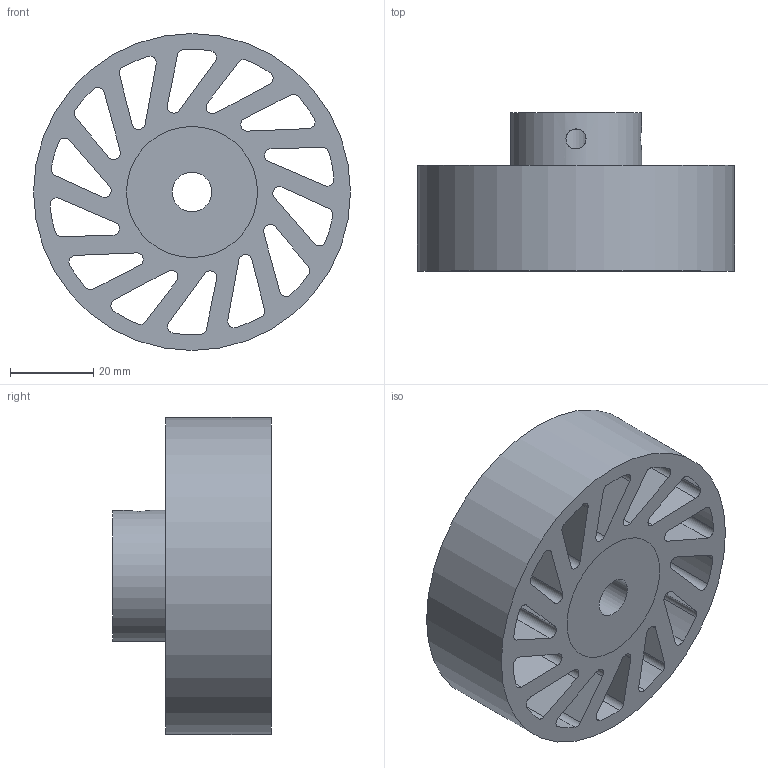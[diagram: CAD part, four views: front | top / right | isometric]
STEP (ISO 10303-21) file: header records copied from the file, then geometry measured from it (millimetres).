
FILE_DESCRIPTION(/* description */ (''),/* implementation_level */ '2;1');
FILE_NAME(/* name */ 'NCW-650-DUR-CLR.stp',/* time_stamp */ '2023-02-01T16:31:13-06:00',/* author */ ('AG'),/* organization */ ('Meridian Laboratory'),/* preprocessor_version */ 'ST-DEVELOPER v18.1',/* originating_system */ 'Autodesk Inventor 2022',/* authorisation */ '');
FILE_SCHEMA (('AUTOMOTIVE_DESIGN { 1 0 10303 214 3 1 1 }'));
Length unit declared in the file: inch
Products named in the file (1): NCW-640-DUR-CLR
Bounding box: 76.2 x 38.1 x 76.2 mm (x, y, z)
Volume: 87264.8 mm3; surface area: 35341.7 mm2
Topology: 2 solids, 2 shells, 94 faces, 274 edges, 184 vertices
Faces by surface type: cylinder 62, plane 32
Full cylindrical faces by diameter (mm): 4.826 x2, 9.538 x1, 31.496 x2, 76.2 x1
Entity records: 3512 total; most frequent: CARTESIAN_POINT 689, DIRECTION 576, ORIENTED_EDGE 548, EDGE_CURVE 274, AXIS2_PLACEMENT_3D 215, VERTEX_POINT 184, LINE 146, VECTOR 146
